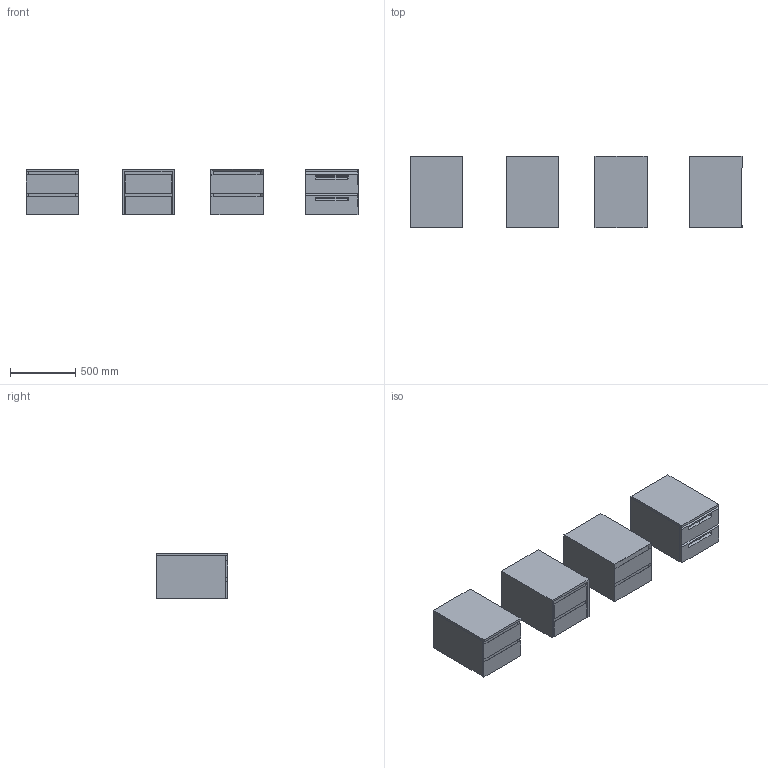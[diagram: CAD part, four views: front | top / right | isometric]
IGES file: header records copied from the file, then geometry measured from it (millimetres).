
Global section: file name: \\Archi-NAS\Comune\X GIOVANNI\MOBILI\COIFFEUSE\COIFFEUSE_cabinets_6.igs; native system: Rhinoceros ( Jan 17 2018 ); preprocessor: Trout Lake IGES 012 Jan 17 2018; date: 230608.092401; units: millimetre
Bounding box: 2539.92 x 550 x 350 mm (x, y, z)
Surface area: 12846973.9 mm2 (no closed solid volume)
Topology: 0 solids, 0 shells, 444 faces, 5016 edges, 6065 vertices
Faces by surface type: bspline 444
